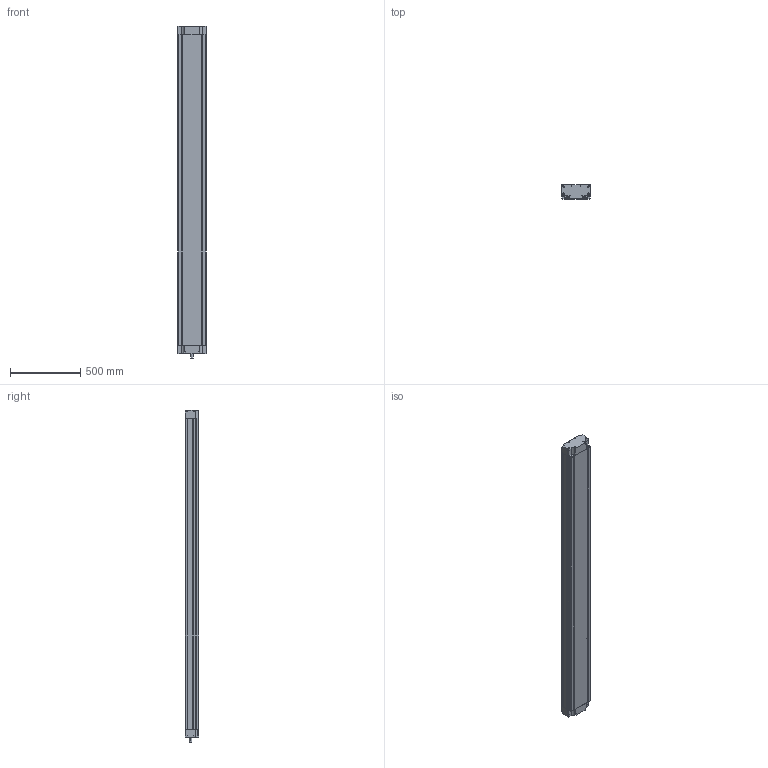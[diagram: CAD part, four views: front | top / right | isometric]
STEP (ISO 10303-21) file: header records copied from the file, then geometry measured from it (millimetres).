
FILE_DESCRIPTION (( 'STEP AP203' ), '1' );
FILE_NAME ('MSY200B-2000-LL3220-P7.STEP', '2013-11-02T05:34:30', ( '微软用户' ), ( '微软中国' ), 'SwSTEP 2.0', 'SolidWorks 2010', '' );
FILE_SCHEMA (( 'CONFIG_CONTROL_DESIGN' ));
Length unit declared in the file: millimetre
Products named in the file (1): MSY200B-2000-LL3220-P7
Bounding box: 200.2 x 99.96 x 2371 mm (x, y, z)
Volume: 42318815.8 mm3; surface area: 2351975.7 mm2
Topology: 1 solids, 1 shells, 326 faces, 855 edges, 552 vertices
Faces by surface type: plane 220, cylinder 98, cone 8
Entity records: 10045 total; most frequent: CARTESIAN_POINT 1756, DIRECTION 1702, ORIENTED_EDGE 1694, EDGE_CURVE 847, LINE 642, VECTOR 642, VERTEX_POINT 552, AXIS2_PLACEMENT_3D 530
